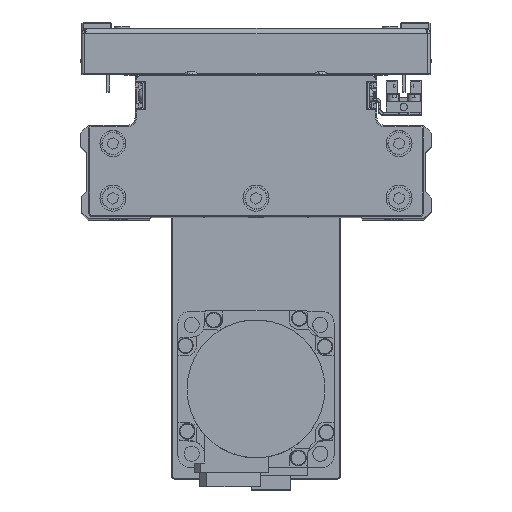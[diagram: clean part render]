
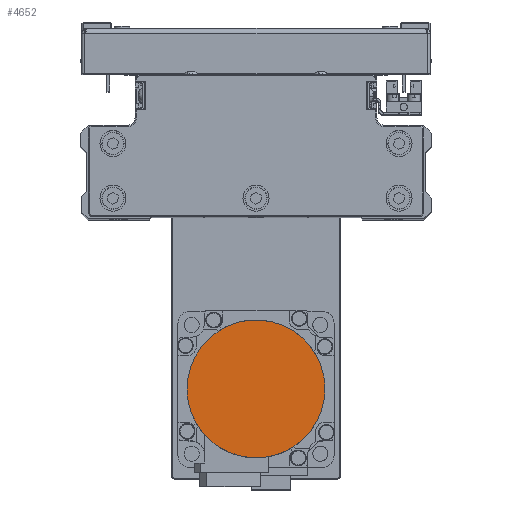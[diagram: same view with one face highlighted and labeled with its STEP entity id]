
A CAD part, top view. The second image highlights one B-rep face of the part: STEP entity #4652.
In plain terms, the highlighted planar face has unit normal (0, 0, 1) as drawn and (0, 0, -1) by its records, which use the part's own axes.
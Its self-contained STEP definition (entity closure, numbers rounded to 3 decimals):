
#768 = CARTESIAN_POINT ( 'NONE',  ( 16.165, 21.07, -109.7 ) ) ;
#799 = CARTESIAN_POINT ( 'NONE',  ( -26.5, 0., -109.7 ) ) ;
#985 = CARTESIAN_POINT ( 'NONE',  ( -16.165, 21.07, -109.7 ) ) ;
#1544 = CARTESIAN_POINT ( 'NONE',  ( -11.744, -23.819, -109.7 ) ) ;
#1766 = CARTESIAN_POINT ( 'NONE',  ( 19.965, -17.512, -109.7 ) ) ;
#4034 = CARTESIAN_POINT ( 'NONE',  ( 21.07, 16.165, -109.7 ) ) ;
#4260 = CARTESIAN_POINT ( 'NONE',  ( -8.539, 25.147, -109.7 ) ) ;
#4484 = CARTESIAN_POINT ( 'NONE',  ( -26.5, 0., -109.7 ) ) ;
#4652 = ADVANCED_FACE ( 'NONE', ( #13549 ), #26835, .F. ) ;
#4821 = CARTESIAN_POINT ( 'NONE',  ( -17.512, -19.965, -109.7 ) ) ;
#5043 = CARTESIAN_POINT ( 'NONE',  ( 13.28, -22.998, -109.7 ) ) ;
#6278 = ORIENTED_EDGE ( 'NONE', *, *, #10497, .F. ) ;
#7314 = CARTESIAN_POINT ( 'NONE',  ( 25.147, 8.539, -109.7 ) ) ;
#7517 = CARTESIAN_POINT ( 'NONE',  ( -1.734, 26.5, -109.7 ) ) ;
#7747 = CARTESIAN_POINT ( 'NONE',  ( -25.652, 6.871, -109.7 ) ) ;
#8087 = CARTESIAN_POINT ( 'NONE',  ( -22.998, -13.28, -109.7 ) ) ;
#8304 = CARTESIAN_POINT ( 'NONE',  ( 6.871, -25.652, -109.7 ) ) ;
#8526 = CARTESIAN_POINT ( 'NONE',  ( 26.5, -1.734, -109.7 ) ) ;
#10281 = DIRECTION ( 'NONE',  ( 0., 0., 1. ) ) ;
#10471 = B_SPLINE_CURVE_WITH_KNOTS ( 'NONE', 3,
 ( #40423, #10585, #23868, #37150, #7314, #20589, #33869, #4034, #17317, #30620, #768, #14058, #27352, #40642, #10805, #24070, #37354, #7517, #20805, #34096, #4260, #17534, #30840, #985, #14269, #27553, #40847, #11005, #24282, #37575, #7747, #21026, #34310, #4484 ),
 .UNSPECIFIED., .F., .F.,
 ( 4, 2, 2, 2, 2, 2, 2, 2, 2, 2, 2, 2, 2, 2, 2, 2, 4 ),
 ( 0., 0.062, 0.125, 0.187, 0.25, 0.312, 0.375, 0.437, 0.5, 0.562, 0.625, 0.687, 0.75, 0.813, 0.875, 0.938, 1. ),
 .UNSPECIFIED. ) ;
#10497 = EDGE_CURVE ( 'NONE', #19288, #31872, #10471, .T. ) ;
#10585 = CARTESIAN_POINT ( 'NONE',  ( 26.5, 1.734, -109.7 ) ) ;
#10805 = CARTESIAN_POINT ( 'NONE',  ( 6.871, 25.652, -109.7 ) ) ;
#11005 = CARTESIAN_POINT ( 'NONE',  ( -22.998, 13.28, -109.7 ) ) ;
#11368 = CARTESIAN_POINT ( 'NONE',  ( -25.652, -6.871, -109.7 ) ) ;
#11569 = CARTESIAN_POINT ( 'NONE',  ( -1.734, -26.5, -109.7 ) ) ;
#11787 = CARTESIAN_POINT ( 'NONE',  ( 25.147, -8.539, -109.7 ) ) ;
#13549 = FACE_OUTER_BOUND ( 'NONE', #18441, .T. ) ;
#14058 = CARTESIAN_POINT ( 'NONE',  ( 13.28, 22.998, -109.7 ) ) ;
#14168 = ORIENTED_EDGE ( 'NONE', *, *, #18406, .F. ) ;
#14269 = CARTESIAN_POINT ( 'NONE',  ( -17.512, 19.965, -109.7 ) ) ;
#14613 = CARTESIAN_POINT ( 'NONE',  ( -26.5, 0., -109.7 ) ) ;
#14827 = CARTESIAN_POINT ( 'NONE',  ( -8.539, -25.147, -109.7 ) ) ;
#15040 = CARTESIAN_POINT ( 'NONE',  ( 21.07, -16.165, -109.7 ) ) ;
#17317 = CARTESIAN_POINT ( 'NONE',  ( 19.965, 17.512, -109.7 ) ) ;
#17534 = CARTESIAN_POINT ( 'NONE',  ( -11.744, 23.819, -109.7 ) ) ;
#18094 = CARTESIAN_POINT ( 'NONE',  ( -16.165, -21.07, -109.7 ) ) ;
#18314 = CARTESIAN_POINT ( 'NONE',  ( 16.165, -21.07, -109.7 ) ) ;
#18406 = EDGE_CURVE ( 'NONE', #31872, #19288, #21977, .T. ) ;
#18441 = EDGE_LOOP ( 'NONE', ( #6278, #14168 ) ) ;
#19288 = VERTEX_POINT ( 'NONE', #22507 ) ;
#20589 = CARTESIAN_POINT ( 'NONE',  ( 23.819, 11.744, -109.7 ) ) ;
#20805 = CARTESIAN_POINT ( 'NONE',  ( -3.469, 26.329, -109.7 ) ) ;
#21026 = CARTESIAN_POINT ( 'NONE',  ( -26.329, 3.469, -109.7 ) ) ;
#21359 = CARTESIAN_POINT ( 'NONE',  ( -21.07, -16.165, -109.7 ) ) ;
#21586 = CARTESIAN_POINT ( 'NONE',  ( 8.539, -25.147, -109.7 ) ) ;
#21808 = CARTESIAN_POINT ( 'NONE',  ( 26.5, 0., -109.7 ) ) ;
#21977 = B_SPLINE_CURVE_WITH_KNOTS ( 'NONE', 3,
 ( #14613, #27903, #41204, #11368, #24641, #37927, #8087, #21359, #34648, #4821, #18094, #31397, #1544, #14827, #28128, #41421, #11569, #24836, #38135, #8304, #21586, #34874, #5043, #18314, #31616, #1766, #15040, #28326, #41631, #11787, #25063, #38360, #8526, #21808 ),
 .UNSPECIFIED., .F., .F.,
 ( 4, 2, 2, 2, 2, 2, 2, 2, 2, 2, 2, 2, 2, 2, 2, 2, 4 ),
 ( 0., 0.063, 0.125, 0.188, 0.25, 0.312, 0.375, 0.437, 0.5, 0.562, 0.625, 0.687, 0.75, 0.813, 0.875, 0.938, 1. ),
 .UNSPECIFIED. ) ;
#22507 = CARTESIAN_POINT ( 'NONE',  ( 26.5, 0., -109.7 ) ) ;
#23568 = DIRECTION ( 'NONE',  ( 1., 0., 0. ) ) ;
#23868 = CARTESIAN_POINT ( 'NONE',  ( 26.329, 3.469, -109.7 ) ) ;
#24070 = CARTESIAN_POINT ( 'NONE',  ( 3.469, 26.329, -109.7 ) ) ;
#24282 = CARTESIAN_POINT ( 'NONE',  ( -23.819, 11.744, -109.7 ) ) ;
#24641 = CARTESIAN_POINT ( 'NONE',  ( -25.147, -8.539, -109.7 ) ) ;
#24836 = CARTESIAN_POINT ( 'NONE',  ( 1.734, -26.5, -109.7 ) ) ;
#25063 = CARTESIAN_POINT ( 'NONE',  ( 25.652, -6.871, -109.7 ) ) ;
#26835 = PLANE ( 'NONE',  #35389 ) ;
#27352 = CARTESIAN_POINT ( 'NONE',  ( 11.744, 23.819, -109.7 ) ) ;
#27553 = CARTESIAN_POINT ( 'NONE',  ( -19.965, 17.512, -109.7 ) ) ;
#27903 = CARTESIAN_POINT ( 'NONE',  ( -26.5, -1.734, -109.7 ) ) ;
#28128 = CARTESIAN_POINT ( 'NONE',  ( -6.871, -25.652, -109.7 ) ) ;
#28326 = CARTESIAN_POINT ( 'NONE',  ( 22.998, -13.28, -109.7 ) ) ;
#30620 = CARTESIAN_POINT ( 'NONE',  ( 17.512, 19.965, -109.7 ) ) ;
#30840 = CARTESIAN_POINT ( 'NONE',  ( -13.28, 22.998, -109.7 ) ) ;
#31397 = CARTESIAN_POINT ( 'NONE',  ( -13.28, -22.998, -109.7 ) ) ;
#31616 = CARTESIAN_POINT ( 'NONE',  ( 17.512, -19.965, -109.7 ) ) ;
#31872 = VERTEX_POINT ( 'NONE', #799 ) ;
#33869 = CARTESIAN_POINT ( 'NONE',  ( 22.998, 13.28, -109.7 ) ) ;
#34096 = CARTESIAN_POINT ( 'NONE',  ( -6.871, 25.652, -109.7 ) ) ;
#34310 = CARTESIAN_POINT ( 'NONE',  ( -26.5, 1.734, -109.7 ) ) ;
#34648 = CARTESIAN_POINT ( 'NONE',  ( -19.965, -17.512, -109.7 ) ) ;
#34874 = CARTESIAN_POINT ( 'NONE',  ( 11.744, -23.819, -109.7 ) ) ;
#35389 = AXIS2_PLACEMENT_3D ( 'NONE', #40126, #10281, #23568 ) ;
#37150 = CARTESIAN_POINT ( 'NONE',  ( 25.652, 6.871, -109.7 ) ) ;
#37354 = CARTESIAN_POINT ( 'NONE',  ( 1.734, 26.5, -109.7 ) ) ;
#37575 = CARTESIAN_POINT ( 'NONE',  ( -25.147, 8.539, -109.7 ) ) ;
#37927 = CARTESIAN_POINT ( 'NONE',  ( -23.819, -11.744, -109.7 ) ) ;
#38135 = CARTESIAN_POINT ( 'NONE',  ( 3.469, -26.329, -109.7 ) ) ;
#38360 = CARTESIAN_POINT ( 'NONE',  ( 26.329, -3.469, -109.7 ) ) ;
#40126 = CARTESIAN_POINT ( 'NONE',  ( 0., 0., -109.7 ) ) ;
#40423 = CARTESIAN_POINT ( 'NONE',  ( 26.5, 0., -109.7 ) ) ;
#40642 = CARTESIAN_POINT ( 'NONE',  ( 8.539, 25.147, -109.7 ) ) ;
#40847 = CARTESIAN_POINT ( 'NONE',  ( -21.07, 16.165, -109.7 ) ) ;
#41204 = CARTESIAN_POINT ( 'NONE',  ( -26.329, -3.469, -109.7 ) ) ;
#41421 = CARTESIAN_POINT ( 'NONE',  ( -3.469, -26.329, -109.7 ) ) ;
#41631 = CARTESIAN_POINT ( 'NONE',  ( 23.819, -11.744, -109.7 ) ) ;
